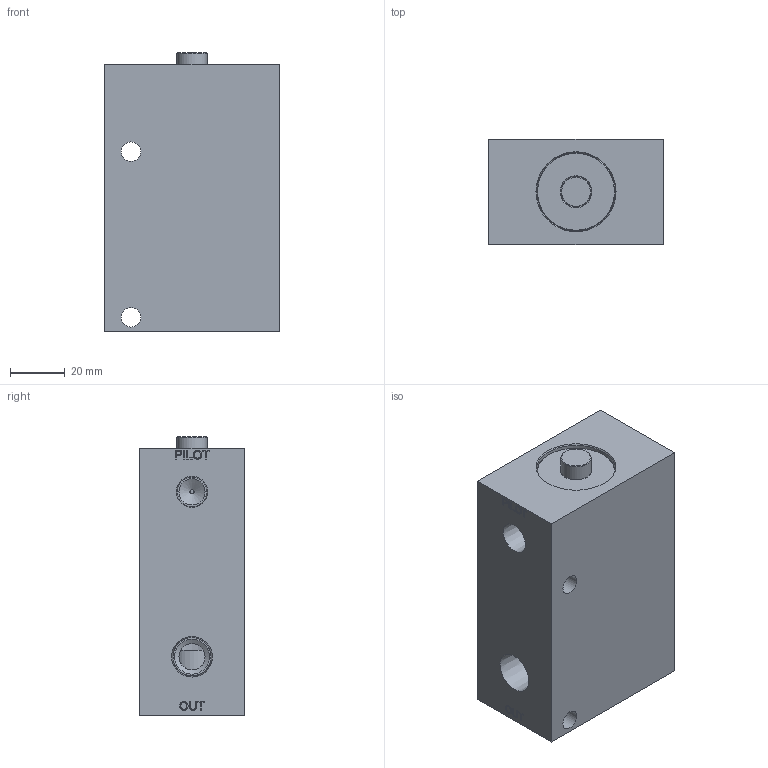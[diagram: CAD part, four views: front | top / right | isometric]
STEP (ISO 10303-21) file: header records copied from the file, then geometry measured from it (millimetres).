
FILE_DESCRIPTION(/* description */ (''),/* implementation_level */ '2;1');
FILE_NAME(/* name */ 'L:\ALADCO\Advertising\3D Content\Valves\Step Files - 2014-11-19 thru Present\30380X.stp',/* time_stamp */ '2014-11-19T13:59:54-06:00',/* author */ ('dmatz'),/* organization */ ('Aladdin Eng. & Manf. Inc.'),/* preprocessor_version */ 'ST-DEVELOPER v15.2',/* originating_system */ 'Autodesk Inventor 2014',/* authorisation */ '0 in^3');
FILE_SCHEMA (('AUTOMOTIVE_DESIGN { 1 0 10303 214 3 1 1 }'));
Length unit declared in the file: inch
Products named in the file (6): 311040; 301076; 311015; 311021; 301015; 303801
Bounding box: 63.5 x 38.1 x 101.45 mm (x, y, z)
Volume: 199658.2 mm3; surface area: 42755.2 mm2
Topology: 5 solids, 5 shells, 202 faces, 456 edges, 298 vertices
Faces by surface type: plane 104, cylinder 36, bspline 26, cone 23, torus 13
Full cylindrical faces by diameter (mm): 1.499 x1, 3.175 x1, 5.156 x1, 6.35 x2, 6.629 x1, 7.112 x2, 9.144 x1, 9.525 x3, 10.719 x1, 11.049 x2, 11.1 x1, 12.7 x3, 13.081 x1, 13.462 x1, 13.894 x2, 15.081 x1, 17.577 x1, 22.149 x1, 24.409 x1, 24.435 x1, 25.4 x2, 28.524 x4, 28.575 x2
Entity records: 5839 total; most frequent: CARTESIAN_POINT 1495, DIRECTION 780, ORIENTED_EDGE 724, EDGE_CURVE 362, EDGE_LOOP 324, AXIS2_PLACEMENT_3D 290, VERTEX_POINT 276, ADVANCED_FACE 202
